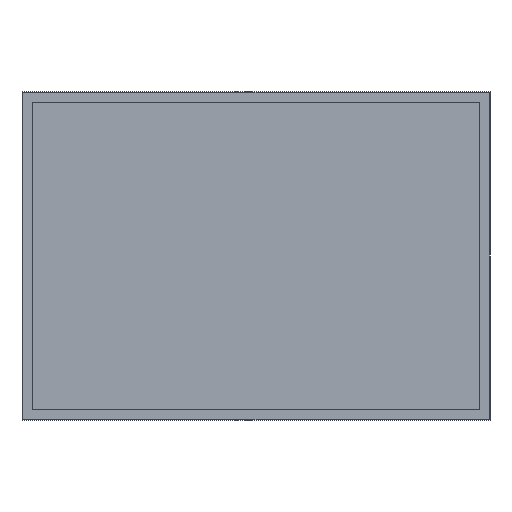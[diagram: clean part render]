
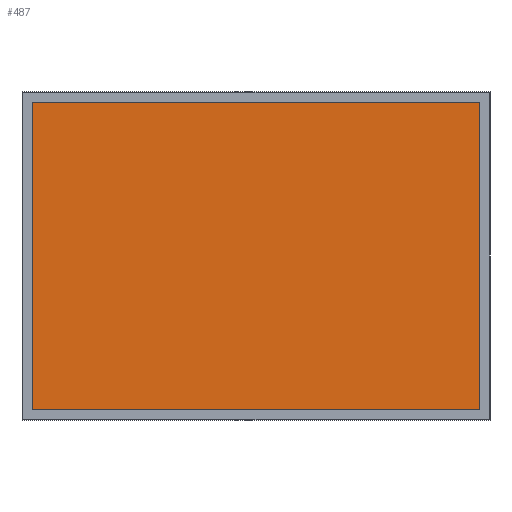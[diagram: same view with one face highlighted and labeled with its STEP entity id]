
A CAD part, front view. The second image highlights one B-rep face of the part: STEP entity #487.
In plain terms, the highlighted planar face has unit normal (0, -1, 0).
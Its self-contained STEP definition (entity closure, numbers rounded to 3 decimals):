
#152=ORIENTED_EDGE('',*,*,#204,.T.);
#153=ORIENTED_EDGE('',*,*,#208,.T.);
#154=ORIENTED_EDGE('',*,*,#211,.T.);
#155=ORIENTED_EDGE('',*,*,#214,.T.);
#204=EDGE_CURVE('',#248,#249,#304,.T.);
#208=EDGE_CURVE('',#249,#252,#308,.T.);
#211=EDGE_CURVE('',#252,#254,#311,.T.);
#214=EDGE_CURVE('',#254,#248,#314,.T.);
#248=VERTEX_POINT('',#779);
#249=VERTEX_POINT('',#780);
#252=VERTEX_POINT('',#788);
#254=VERTEX_POINT('',#794);
#304=LINE('',#778,#364);
#308=LINE('',#787,#368);
#311=LINE('',#793,#371);
#314=LINE('',#799,#374);
#364=VECTOR('',#650,1000.);
#368=VECTOR('',#656,1000.);
#371=VECTOR('',#661,1000.);
#374=VECTOR('',#666,1000.);
#405=EDGE_LOOP('',(#152,#153,#154,#155));
#435=FACE_BOUND('',#405,.T.);
#461=PLANE('',#552);
#487=ADVANCED_FACE('',(#435),#461,.T.);
#552=AXIS2_PLACEMENT_3D('',#802,#670,#671);
#650=DIRECTION('',(1.,0.,0.));
#656=DIRECTION('',(0.,0.,1.));
#661=DIRECTION('',(-1.,0.,0.));
#666=DIRECTION('',(0.,0.,-1.));
#670=DIRECTION('',(0.,-1.,0.));
#671=DIRECTION('',(0.,0.,-1.));
#778=CARTESIAN_POINT('',(349.345,0.,125.028));
#779=CARTESIAN_POINT('',(349.345,0.,125.028));
#780=CARTESIAN_POINT('',(1309.345,0.,125.028));
#787=CARTESIAN_POINT('',(1309.345,0.,125.028));
#788=CARTESIAN_POINT('',(1309.345,0.,785.028));
#793=CARTESIAN_POINT('',(1309.345,0.,785.028));
#794=CARTESIAN_POINT('',(349.345,0.,785.028));
#799=CARTESIAN_POINT('',(349.345,0.,785.028));
#802=CARTESIAN_POINT('',(0.,0.,0.));
